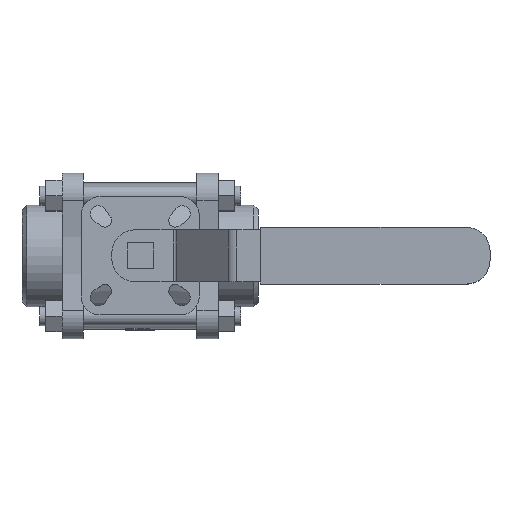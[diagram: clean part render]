
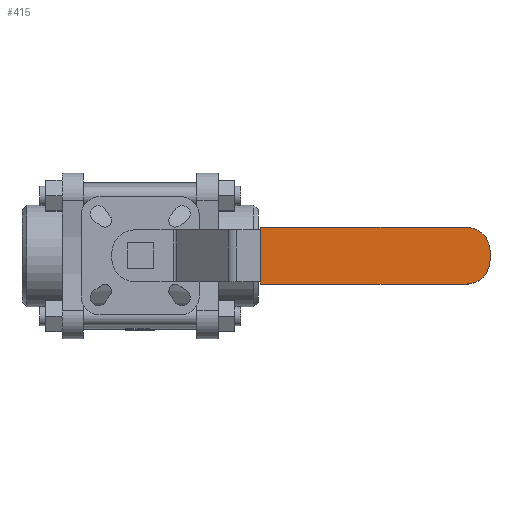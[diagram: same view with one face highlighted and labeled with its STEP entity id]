
A CAD part, top view. The second image highlights one B-rep face of the part: STEP entity #415.
In plain terms, the highlighted planar face has unit normal (0, 0, 1).
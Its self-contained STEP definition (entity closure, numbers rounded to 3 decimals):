
#415 = ADVANCED_FACE( '', ( #1070 ), #1071, .F. );
#1070 = FACE_OUTER_BOUND( '', #2764, .T. );
#1071 = PLANE( '', #2765 );
#2764 = EDGE_LOOP( '', ( #5158, #5159, #5160, #5161, #5162, #5163 ) );
#2765 = AXIS2_PLACEMENT_3D( '', #5164, #5165, #5166 );
#5158 = ORIENTED_EDGE( '', *, *, #7385, .T. );
#5159 = ORIENTED_EDGE( '', *, *, #7386, .T. );
#5160 = ORIENTED_EDGE( '', *, *, #7387, .T. );
#5161 = ORIENTED_EDGE( '', *, *, #7388, .F. );
#5162 = ORIENTED_EDGE( '', *, *, #7389, .F. );
#5163 = ORIENTED_EDGE( '', *, *, #7296, .T. );
#5164 = CARTESIAN_POINT( '', ( 148., -12., 28. ) );
#5165 = DIRECTION( '', ( 0., 0., -1. ) );
#5166 = DIRECTION( '', ( -1., 0., 0. ) );
#7296 = EDGE_CURVE( '', #8359, #8357, #8360, .F. );
#7385 = EDGE_CURVE( '', #8357, #8516, #8517, .T. );
#7386 = EDGE_CURVE( '', #8516, #8518, #8519, .F. );
#7387 = EDGE_CURVE( '', #8518, #8520, #8521, .T. );
#7388 = EDGE_CURVE( '', #8522, #8520, #8523, .T. );
#7389 = EDGE_CURVE( '', #8359, #8522, #8524, .T. );
#8357 = VERTEX_POINT( '', #10444 );
#8359 = VERTEX_POINT( '', #10447 );
#8360 = CIRCLE( '', #10448, 10. );
#8516 = VERTEX_POINT( '', #11154 );
#8517 = LINE( '', #11155, #11156 );
#8518 = VERTEX_POINT( '', #11157 );
#8519 = CIRCLE( '', #11158, 10. );
#8520 = VERTEX_POINT( '', #11159 );
#8521 = LINE( '', #11160, #11161 );
#8522 = VERTEX_POINT( '', #11162 );
#8523 = LINE( '', #11163, #11164 );
#8524 = LINE( '', #11165, #11166 );
#10444 = CARTESIAN_POINT( '', ( 148., -2., 28. ) );
#10447 = CARTESIAN_POINT( '', ( 138., -12., 28. ) );
#10448 = AXIS2_PLACEMENT_3D( '', #13934, #13935, #13936 );
#11154 = CARTESIAN_POINT( '', ( 148., 2., 28. ) );
#11155 = CARTESIAN_POINT( '', ( 148., -12., 28. ) );
#11156 = VECTOR( '', #14058, 1000. );
#11157 = CARTESIAN_POINT( '', ( 138., 12., 28. ) );
#11158 = AXIS2_PLACEMENT_3D( '', #14059, #14060, #14061 );
#11159 = CARTESIAN_POINT( '', ( 50.899, 12., 28. ) );
#11160 = CARTESIAN_POINT( '', ( 148., 12., 28. ) );
#11161 = VECTOR( '', #14062, 1000. );
#11162 = CARTESIAN_POINT( '', ( 50.899, -12., 28. ) );
#11163 = CARTESIAN_POINT( '', ( 50.899, -12., 28. ) );
#11164 = VECTOR( '', #14063, 1000. );
#11165 = CARTESIAN_POINT( '', ( 148., -12., 28. ) );
#11166 = VECTOR( '', #14064, 1000. );
#13934 = CARTESIAN_POINT( '', ( 138., -2., 28. ) );
#13935 = DIRECTION( '', ( 0., 0., -1. ) );
#13936 = DIRECTION( '', ( -1., 0., 0. ) );
#14058 = DIRECTION( '', ( 0., 1., 0. ) );
#14059 = CARTESIAN_POINT( '', ( 138., 2., 28. ) );
#14060 = DIRECTION( '', ( 0., 0., -1. ) );
#14061 = DIRECTION( '', ( -1., 0., 0. ) );
#14062 = DIRECTION( '', ( -1., 0., 0. ) );
#14063 = DIRECTION( '', ( 0., 1., 0. ) );
#14064 = DIRECTION( '', ( -1., 0., 0. ) );
